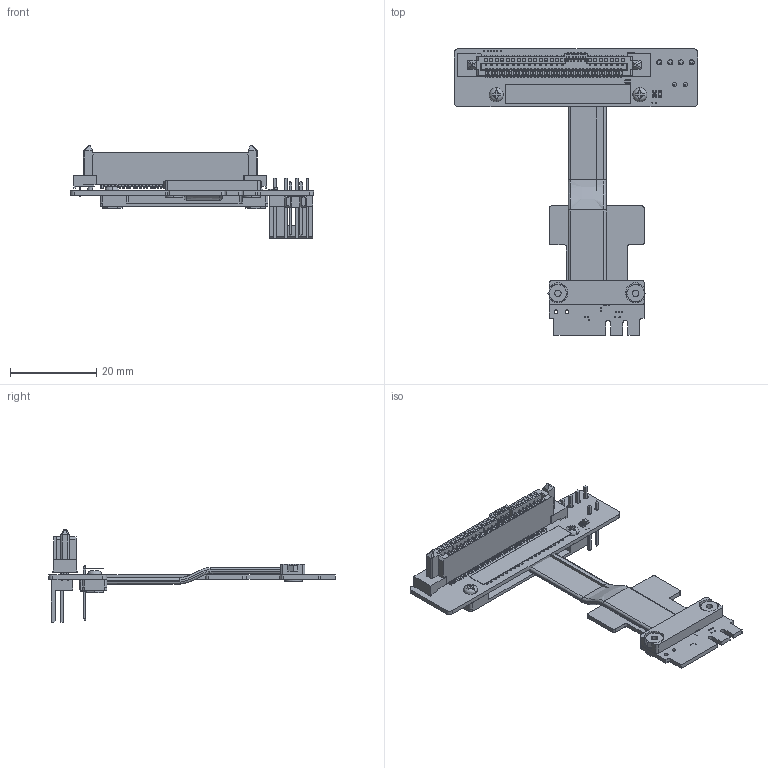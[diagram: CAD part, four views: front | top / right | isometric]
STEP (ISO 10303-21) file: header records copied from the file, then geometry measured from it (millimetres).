
FILE_DESCRIPTION(('Open CASCADE Model'),'2;1');
FILE_NAME('Open CASCADE Shape Model','2020-03-21T03:05:04',('Author'),( 'Open CASCADE'),'Open CASCADE STEP processor 6.8','Open CASCADE 6.8' ,'Unknown');
FILE_SCHEMA(('AUTOMOTIVE_DESIGN { 1 0 10303 214 1 1 1 1 }'));
Length unit declared in the file: millimetre
Products named in the file (25): PCB; Board; Open CASCADE STEP translator 6.8 21.1.1; D1; LED_AP1608; R1; 0603_RES; Capsule; Encapsulation; TopCover; Free-Models; G0030_RGB9411503; Hexagon_nut_ISO_4032_(DIN_934)_-_M2_RGB9411503; RP55S-PAD; Tape14x5_RGB0; TAPE_RGB0; RP22S-PAD; G0033_RGB14277081; U2_NVMe_贴片Lotes_ASATS001-P002C_3D__20161013_RGB10066329; c-171825-4-y-3d_RGB15724527; Pin_Header_2x1_TH_Pitch_2.54mm; Open CASCADE STEP translator 6.8 21.4.17.1; Open CASCADE STEP translator 6.8 21.4.17.2; cable13pin-43q_RGB4078660
Assembly tree (31 placements, depth 4):
  PCB
    Board
      Open CASCADE STEP translator 6.8 21.1.1
    D1
      LED_AP1608
    R1
      0603_RES
        Capsule
        Encapsulation  x2
        TopCover
    Free-Models
      G0030_RGB9411503  x2
      Hexagon_nut_ISO_4032_(DIN_934)_-_M2_RGB9411503  x4
      RP55S-PAD
      Tape14x5_RGB0
      TAPE_RGB0
      RP22S-PAD
      G0033_RGB14277081  x2
      U2_NVMe_贴片Lotes_ASATS001-P002C_3D__20161013_RGB10066329  x2
      U2_NVMe_贴片Lotes_ASATS001-P002C_3D__20161013_RGB10066329
      c-171825-4-y-3d_RGB15724527
      Pin_Header_2x1_TH_Pitch_2.54mm
        Open CASCADE STEP translator 6.8 21.4.17.1
        Open CASCADE STEP translator 6.8 21.4.17.2
      cable13pin-43q_RGB4078660
Bounding box: 56.43 x 66.56 x 21.52 mm (x, y, z)
Volume: 5915.5 mm3; surface area: 12899.6 mm2
Topology: 56 solids, 56 shells, 10926 faces, 28777 edges, 18467 vertices
Faces by surface type: plane 8037, cylinder 1695, bspline 1078, cone 54, torus 52, revolution 10
Full cylindrical faces by diameter (mm): 0.254 x49, 0.6 x60, 0.8 x3, 0.9 x5, 1.2 x7, 1.3 x1, 2.2 x7, 2.216 x1, 4.8 x2
Entity records: 319368 total; most frequent: CARTESIAN_POINT 72419, ORIENTED_EDGE 39938, DIRECTION 32712, EDGE_CURVE 19969, LINE 14858, VECTOR 14858, VERTEX_POINT 12822, AXIS2_PLACEMENT_3D 8924
